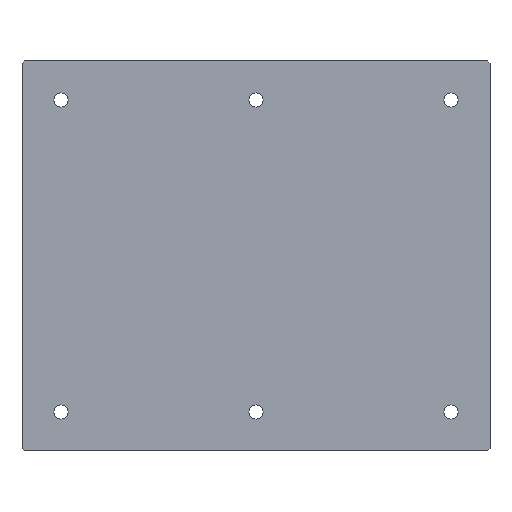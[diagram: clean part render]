
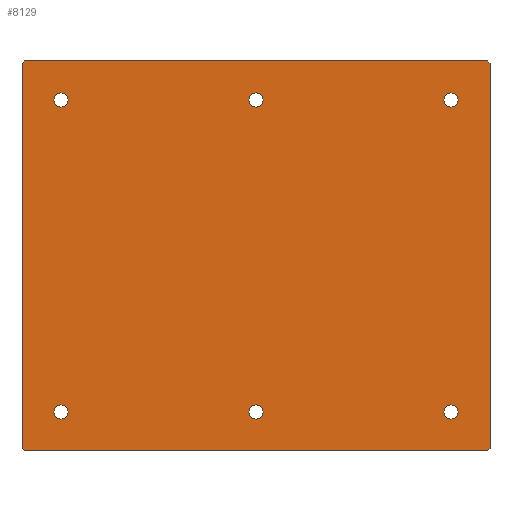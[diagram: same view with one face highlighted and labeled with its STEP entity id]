
A CAD part, front view. The second image highlights one B-rep face of the part: STEP entity #8129.
In plain terms, the highlighted planar face has unit normal (0, -1, 0).
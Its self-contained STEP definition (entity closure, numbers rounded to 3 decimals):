
#1489=CARTESIAN_POINT('',(-250.,-30.,200.));
#1490=DIRECTION('',(0.,-1.,0.));
#1491=DIRECTION('',(1.,0.,0.));
#1492=AXIS2_PLACEMENT_3D('',#1489,#1490,#1491);
#1494=CARTESIAN_POINT('',(-250.,-30.,200.));
#1495=DIRECTION('',(0.,-1.,0.));
#1496=DIRECTION('',(-1.,0.,0.));
#1497=AXIS2_PLACEMENT_3D('',#1494,#1495,#1496);
#1499=CARTESIAN_POINT('',(250.,-30.,200.));
#1500=DIRECTION('',(0.,-1.,0.));
#1501=DIRECTION('',(1.,0.,0.));
#1502=AXIS2_PLACEMENT_3D('',#1499,#1500,#1501);
#1504=CARTESIAN_POINT('',(250.,-30.,200.));
#1505=DIRECTION('',(0.,-1.,0.));
#1506=DIRECTION('',(-1.,0.,0.));
#1507=AXIS2_PLACEMENT_3D('',#1504,#1505,#1506);
#1509=CARTESIAN_POINT('',(0.,-30.,200.));
#1510=DIRECTION('',(0.,-1.,0.));
#1511=DIRECTION('',(1.,0.,0.));
#1512=AXIS2_PLACEMENT_3D('',#1509,#1510,#1511);
#1514=CARTESIAN_POINT('',(0.,-30.,200.));
#1515=DIRECTION('',(0.,-1.,0.));
#1516=DIRECTION('',(-1.,0.,0.));
#1517=AXIS2_PLACEMENT_3D('',#1514,#1515,#1516);
#1519=CARTESIAN_POINT('',(0.,-30.,-200.));
#1520=DIRECTION('',(0.,1.,0.));
#1521=DIRECTION('',(1.,0.,0.));
#1522=AXIS2_PLACEMENT_3D('',#1519,#1520,#1521);
#1524=CARTESIAN_POINT('',(0.,-30.,-200.));
#1525=DIRECTION('',(0.,1.,0.));
#1526=DIRECTION('',(-1.,0.,0.));
#1527=AXIS2_PLACEMENT_3D('',#1524,#1525,#1526);
#1529=CARTESIAN_POINT('',(250.,-30.,-200.));
#1530=DIRECTION('',(0.,1.,0.));
#1531=DIRECTION('',(1.,0.,0.));
#1532=AXIS2_PLACEMENT_3D('',#1529,#1530,#1531);
#1534=CARTESIAN_POINT('',(250.,-30.,-200.));
#1535=DIRECTION('',(0.,1.,0.));
#1536=DIRECTION('',(-1.,0.,0.));
#1537=AXIS2_PLACEMENT_3D('',#1534,#1535,#1536);
#1539=CARTESIAN_POINT('',(-250.,-30.,-200.));
#1540=DIRECTION('',(0.,1.,0.));
#1541=DIRECTION('',(1.,0.,0.));
#1542=AXIS2_PLACEMENT_3D('',#1539,#1540,#1541);
#1544=CARTESIAN_POINT('',(-250.,-30.,-200.));
#1545=DIRECTION('',(0.,1.,0.));
#1546=DIRECTION('',(-1.,0.,0.));
#1547=AXIS2_PLACEMENT_3D('',#1544,#1545,#1546);
#1549=DIRECTION('',(0.707,0.,-0.707));
#1550=VECTOR('',#1549,4.243);
#1551=CARTESIAN_POINT('',(-300.,-30.,-247.));
#1552=LINE('',#1551,#1550);
#1553=DIRECTION('',(0.,0.,1.));
#1554=VECTOR('',#1553,494.);
#1555=CARTESIAN_POINT('',(-300.,-30.,-247.));
#1556=LINE('',#1555,#1554);
#1557=DIRECTION('',(-0.707,0.,-0.707));
#1558=VECTOR('',#1557,4.243);
#1559=CARTESIAN_POINT('',(-297.,-30.,250.));
#1560=LINE('',#1559,#1558);
#1561=DIRECTION('',(1.,0.,0.));
#1562=VECTOR('',#1561,594.);
#1563=CARTESIAN_POINT('',(-297.,-30.,250.));
#1564=LINE('',#1563,#1562);
#1565=DIRECTION('',(-0.707,0.,0.707));
#1566=VECTOR('',#1565,4.243);
#1567=CARTESIAN_POINT('',(300.,-30.,247.));
#1568=LINE('',#1567,#1566);
#1569=DIRECTION('',(0.,0.,-1.));
#1570=VECTOR('',#1569,494.);
#1571=CARTESIAN_POINT('',(300.,-30.,247.));
#1572=LINE('',#1571,#1570);
#1573=DIRECTION('',(0.707,0.,0.707));
#1574=VECTOR('',#1573,4.243);
#1575=CARTESIAN_POINT('',(297.,-30.,-250.));
#1576=LINE('',#1575,#1574);
#1577=DIRECTION('',(-1.,0.,0.));
#1578=VECTOR('',#1577,594.);
#1579=CARTESIAN_POINT('',(297.,-30.,-250.));
#1580=LINE('',#1579,#1578);
#5761=CARTESIAN_POINT('',(9.,-30.,-200.));
#5762=CARTESIAN_POINT('',(-9.,-30.,-200.));
#5763=VERTEX_POINT('',#5761);
#5764=VERTEX_POINT('',#5762);
#5789=CARTESIAN_POINT('',(259.,-30.,-200.));
#5790=CARTESIAN_POINT('',(241.,-30.,-200.));
#5791=VERTEX_POINT('',#5789);
#5792=VERTEX_POINT('',#5790);
#5825=CARTESIAN_POINT('',(-241.,-30.,-200.));
#5827=VERTEX_POINT('',#5825);
#5829=CARTESIAN_POINT('',(-259.,-30.,-200.));
#5831=VERTEX_POINT('',#5829);
#5865=CARTESIAN_POINT('',(9.,-30.,200.));
#5866=VERTEX_POINT('',#5865);
#5867=CARTESIAN_POINT('',(-9.,-30.,200.));
#5868=VERTEX_POINT('',#5867);
#5877=CARTESIAN_POINT('',(259.,-30.,200.));
#5878=VERTEX_POINT('',#5877);
#5879=CARTESIAN_POINT('',(241.,-30.,200.));
#5880=VERTEX_POINT('',#5879);
#5913=CARTESIAN_POINT('',(-241.,-30.,200.));
#5915=VERTEX_POINT('',#5913);
#5917=CARTESIAN_POINT('',(-259.,-30.,200.));
#5919=VERTEX_POINT('',#5917);
#6177=CARTESIAN_POINT('',(-300.,-30.,-247.));
#6178=CARTESIAN_POINT('',(-297.,-30.,-250.));
#6179=VERTEX_POINT('',#6177);
#6180=VERTEX_POINT('',#6178);
#6185=CARTESIAN_POINT('',(-297.,-30.,250.));
#6186=CARTESIAN_POINT('',(-300.,-30.,247.));
#6187=VERTEX_POINT('',#6185);
#6188=VERTEX_POINT('',#6186);
#6193=CARTESIAN_POINT('',(300.,-30.,247.));
#6194=CARTESIAN_POINT('',(297.,-30.,250.));
#6195=VERTEX_POINT('',#6193);
#6196=VERTEX_POINT('',#6194);
#6201=CARTESIAN_POINT('',(297.,-30.,-250.));
#6202=CARTESIAN_POINT('',(300.,-30.,-247.));
#6203=VERTEX_POINT('',#6201);
#6204=VERTEX_POINT('',#6202);
#8072=CARTESIAN_POINT('',(0.,-30.,0.));
#8073=DIRECTION('',(0.,1.,0.));
#8074=DIRECTION('',(1.,0.,0.));
#8075=AXIS2_PLACEMENT_3D('',#8072,#8073,#8074);
#8076=PLANE('',#8075);
#8077=ORIENTED_EDGE('',*,*,#8063,.F.);
#8079=ORIENTED_EDGE('',*,*,#8078,.T.);
#8081=ORIENTED_EDGE('',*,*,#8080,.F.);
#8083=ORIENTED_EDGE('',*,*,#8082,.T.);
#8085=ORIENTED_EDGE('',*,*,#8084,.F.);
#8087=ORIENTED_EDGE('',*,*,#8086,.T.);
#8089=ORIENTED_EDGE('',*,*,#8088,.F.);
#8090=ORIENTED_EDGE('',*,*,#7968,.T.);
#8091=EDGE_LOOP('',(#8077,#8079,#8081,#8083,#8085,#8087,#8089,#8090));
#8092=FACE_OUTER_BOUND('',#8091,.F.);
#8094=ORIENTED_EDGE('',*,*,#8093,.T.);
#8096=ORIENTED_EDGE('',*,*,#8095,.T.);
#8097=EDGE_LOOP('',(#8094,#8096));
#8098=FACE_BOUND('',#8097,.F.);
#8100=ORIENTED_EDGE('',*,*,#8099,.T.);
#8102=ORIENTED_EDGE('',*,*,#8101,.T.);
#8103=EDGE_LOOP('',(#8100,#8102));
#8104=FACE_BOUND('',#8103,.F.);
#8106=ORIENTED_EDGE('',*,*,#8105,.F.);
#8108=ORIENTED_EDGE('',*,*,#8107,.F.);
#8109=EDGE_LOOP('',(#8106,#8108));
#8110=FACE_BOUND('',#8109,.F.);
#8112=ORIENTED_EDGE('',*,*,#8111,.F.);
#8114=ORIENTED_EDGE('',*,*,#8113,.F.);
#8115=EDGE_LOOP('',(#8112,#8114));
#8116=FACE_BOUND('',#8115,.F.);
#8118=ORIENTED_EDGE('',*,*,#8117,.F.);
#8120=ORIENTED_EDGE('',*,*,#8119,.F.);
#8121=EDGE_LOOP('',(#8118,#8120));
#8122=FACE_BOUND('',#8121,.F.);
#8124=ORIENTED_EDGE('',*,*,#8123,.T.);
#8126=ORIENTED_EDGE('',*,*,#8125,.T.);
#8127=EDGE_LOOP('',(#8124,#8126));
#8128=FACE_BOUND('',#8127,.F.);
#8129=ADVANCED_FACE('',(#8092,#8098,#8104,#8110,#8116,#8122,#8128),#8076,.F.);
#1493=CIRCLE('',#1492,9.);
#1498=CIRCLE('',#1497,9.);
#1503=CIRCLE('',#1502,9.);
#1508=CIRCLE('',#1507,9.);
#1513=CIRCLE('',#1512,9.);
#1518=CIRCLE('',#1517,9.);
#1523=CIRCLE('',#1522,9.);
#1528=CIRCLE('',#1527,9.);
#1533=CIRCLE('',#1532,9.);
#1538=CIRCLE('',#1537,9.);
#1543=CIRCLE('',#1542,9.);
#1548=CIRCLE('',#1547,9.);
#7968=EDGE_CURVE('',#6203,#6180,#1580,.T.);
#8063=EDGE_CURVE('',#6179,#6180,#1552,.T.);
#8078=EDGE_CURVE('',#6179,#6188,#1556,.T.);
#8080=EDGE_CURVE('',#6187,#6188,#1560,.T.);
#8082=EDGE_CURVE('',#6187,#6196,#1564,.T.);
#8084=EDGE_CURVE('',#6195,#6196,#1568,.T.);
#8086=EDGE_CURVE('',#6195,#6204,#1572,.T.);
#8088=EDGE_CURVE('',#6203,#6204,#1576,.T.);
#8093=EDGE_CURVE('',#5878,#5880,#1503,.T.);
#8095=EDGE_CURVE('',#5880,#5878,#1508,.T.);
#8099=EDGE_CURVE('',#5866,#5868,#1513,.T.);
#8101=EDGE_CURVE('',#5868,#5866,#1518,.T.);
#8105=EDGE_CURVE('',#5763,#5764,#1523,.T.);
#8107=EDGE_CURVE('',#5764,#5763,#1528,.T.);
#8111=EDGE_CURVE('',#5791,#5792,#1533,.T.);
#8113=EDGE_CURVE('',#5792,#5791,#1538,.T.);
#8117=EDGE_CURVE('',#5827,#5831,#1543,.T.);
#8119=EDGE_CURVE('',#5831,#5827,#1548,.T.);
#8123=EDGE_CURVE('',#5915,#5919,#1493,.T.);
#8125=EDGE_CURVE('',#5919,#5915,#1498,.T.);
